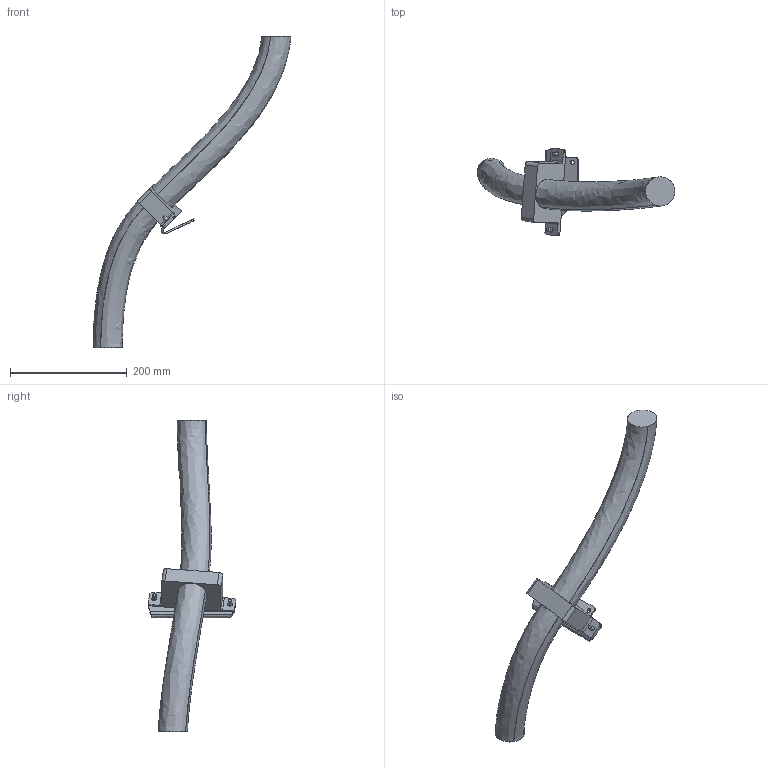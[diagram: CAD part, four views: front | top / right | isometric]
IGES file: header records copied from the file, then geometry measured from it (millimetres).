
Start section: SolidWorks IGES file using analytic representation for surfaces
Global section: file name: C:\Users\SEJAOLS6\OneDrive - ABB\Documents\SAP\7710\7710_Lightweight_models\IRB7710-LID-SW_280kg-350_OC_01_SW_J\IRB7710-LID-SW_280kg_350_OC_01_IGES_J\IRB77X0_All_OC_00_LINK01_CABLE.igs; native system: SolidWorks 2024; preprocessor: SolidWorks 2024; author: SEJAOLS6; date: 260126.162349; units: millimetre
Bounding box: 338.44 x 149.94 x 531.95 mm (x, y, z)
Surface area: 138002.2 mm2 (no closed solid volume)
Topology: 0 solids, 0 shells, 75 faces, 1178 edges, 1178 vertices
Faces by surface type: bspline 47, revolution 28
